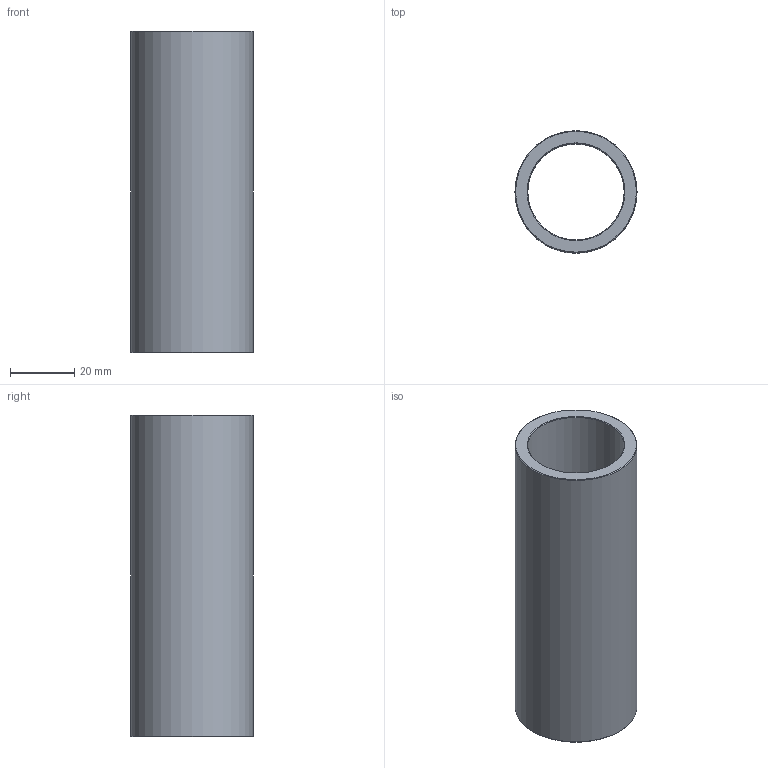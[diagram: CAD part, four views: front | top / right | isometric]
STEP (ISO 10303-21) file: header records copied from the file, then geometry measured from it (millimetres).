
FILE_DESCRIPTION(('STEP AP203'),'1');
FILE_NAME('C:/Users/Rodrigo/Desktop/GA4.030.100-1.step','2016-11-07T16:56:17',(' '),(' '),'Spatial InterOp 3D',' ',' ');
FILE_SCHEMA(('CONFIG_CONTROL_DESIGN'));
Length unit declared in the file: millimetre
Products named in the file (1): 1
Bounding box: 38 x 38 x 100 mm (x, y, z)
Volume: 42717.1 mm3; surface area: 22167.3 mm2
Topology: 1 solids, 1 shells, 8 faces, 14 edges, 8 vertices
Faces by surface type: cone 4, cylinder 2, plane 2
Full cylindrical faces by diameter (mm): 30 x1, 38 x1
Entity records: 212 total; most frequent: DIRECTION 34, CARTESIAN_POINT 25, AXIS2_PLACEMENT_3D 17, EDGE_LOOP 16, ORIENTED_EDGE 16, FACE_OUTER_BOUND 10, ADVANCED_FACE 8, EDGE_CURVE 8
